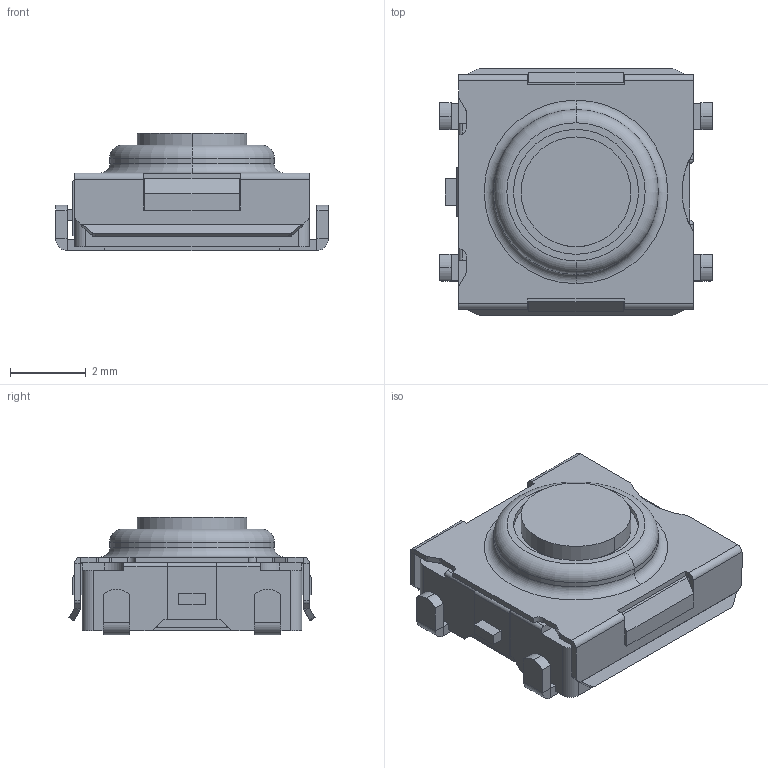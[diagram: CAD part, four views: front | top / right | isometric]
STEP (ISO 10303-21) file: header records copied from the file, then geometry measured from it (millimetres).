
FILE_DESCRIPTION (( 'STEP AP214' ), '1' );
FILE_NAME ('SKHUBH.STEP', '2009-12-09T06:12:37', ( '' ), ( '' ), 'SwSTEP 2.0', 'SolidWorks 2007', '' );
FILE_SCHEMA (( 'AUTOMOTIVE_DESIGN' ));
Length unit declared in the file: millimetre
Products named in the file (1): SKHUBH
Bounding box: 7.2 x 6.5 x 3.1 mm (x, y, z)
Volume: 86.2 mm3; surface area: 189.2 mm2
Topology: 1 solids, 1 shells, 239 faces, 627 edges, 380 vertices
Faces by surface type: plane 157, cylinder 72, torus 4, bspline 4, sphere 2
Entity records: 9889 total; most frequent: CARTESIAN_POINT 1313, ORIENTED_EDGE 1250, DIRECTION 1231, EDGE_CURVE 625, VECTOR 459, LINE 459, AXIS2_PLACEMENT_3D 386, VERTEX_POINT 380
